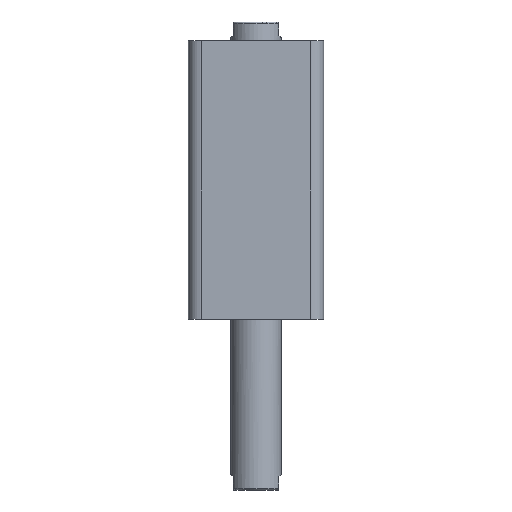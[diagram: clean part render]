
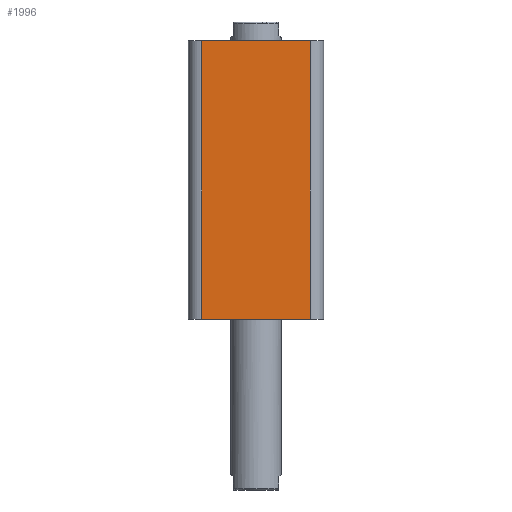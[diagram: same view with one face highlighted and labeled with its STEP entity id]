
A CAD part, front view. The second image highlights one B-rep face of the part: STEP entity #1996.
In plain terms, the highlighted planar face has unit normal (0, -1, 0).
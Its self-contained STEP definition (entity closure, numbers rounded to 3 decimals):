
#252 = EDGE_CURVE ( 'NONE', #2642, #2033, #1461, .T. ) ;
#253 = EDGE_CURVE ( 'NONE', #2642, #2034, #1463, .T. ) ;
#254 = EDGE_CURVE ( 'NONE', #2034, #2027, #1455, .T. ) ;
#255 = EDGE_CURVE ( 'NONE', #2027, #2033, #1467, .T. ) ;
#1006 = CARTESIAN_POINT ( 'NONE',  ( -40., -40., 165. ) ) ;
#1012 = PLANE ( 'NONE',  #2154 ) ;
#1013 = DIRECTION ( 'NONE',  ( 0., 1., 0. ) ) ;
#1014 = DIRECTION ( 'NONE',  ( 0., 0., 1. ) ) ;
#1144 = ORIENTED_EDGE ( 'NONE', *, *, #255, .T. ) ;
#1145 = ORIENTED_EDGE ( 'NONE', *, *, #254, .T. ) ;
#1146 = ORIENTED_EDGE ( 'NONE', *, *, #253, .T. ) ;
#1147 = ORIENTED_EDGE ( 'NONE', *, *, #252, .F. ) ;
#1455 = LINE ( 'NONE', #2982, #1468 ) ;
#1461 = LINE ( 'NONE', #2992, #1464 ) ;
#1463 = LINE ( 'NONE', #2994, #1466 ) ;
#1464 = VECTOR ( 'NONE', #2993, 1000. ) ;
#1466 = VECTOR ( 'NONE', #2995, 1000. ) ;
#1467 = LINE ( 'NONE', #2997, #1470 ) ;
#1468 = VECTOR ( 'NONE', #2996, 1000. ) ;
#1470 = VECTOR ( 'NONE', #2998, 1000. ) ;
#1772 = FACE_OUTER_BOUND ( 'NONE', #2072, .T. ) ;
#1996 = ADVANCED_FACE ( 'NONE', ( #1772 ), #1012, .F. ) ;
#2027 = VERTEX_POINT ( 'NONE', #2266 ) ;
#2033 = VERTEX_POINT ( 'NONE', #2272 ) ;
#2034 = VERTEX_POINT ( 'NONE', #2264 ) ;
#2072 = EDGE_LOOP ( 'NONE', ( #1147, #1146, #1145, #1144 ) ) ;
#2154 = AXIS2_PLACEMENT_3D ( 'NONE', #1006, #1013, #1014 ) ;
#2264 = CARTESIAN_POINT ( 'NONE',  ( -32., -40., 0. ) ) ;
#2266 = CARTESIAN_POINT ( 'NONE',  ( 32., -40., 0. ) ) ;
#2272 = CARTESIAN_POINT ( 'NONE',  ( 32., -40., 165. ) ) ;
#2310 = CARTESIAN_POINT ( 'NONE',  ( -32., -40., 165. ) ) ;
#2642 = VERTEX_POINT ( 'NONE', #2310 ) ;
#2982 = CARTESIAN_POINT ( 'NONE',  ( -40., -40., 0. ) ) ;
#2992 = CARTESIAN_POINT ( 'NONE',  ( -40., -40., 165. ) ) ;
#2993 = DIRECTION ( 'NONE',  ( 1., 0., 0. ) ) ;
#2994 = CARTESIAN_POINT ( 'NONE',  ( -32., -40., 165. ) ) ;
#2995 = DIRECTION ( 'NONE',  ( 0., 0., -1. ) ) ;
#2996 = DIRECTION ( 'NONE',  ( 1., 0., 0. ) ) ;
#2997 = CARTESIAN_POINT ( 'NONE',  ( 32., -40., 165. ) ) ;
#2998 = DIRECTION ( 'NONE',  ( 0., 0., 1. ) ) ;
